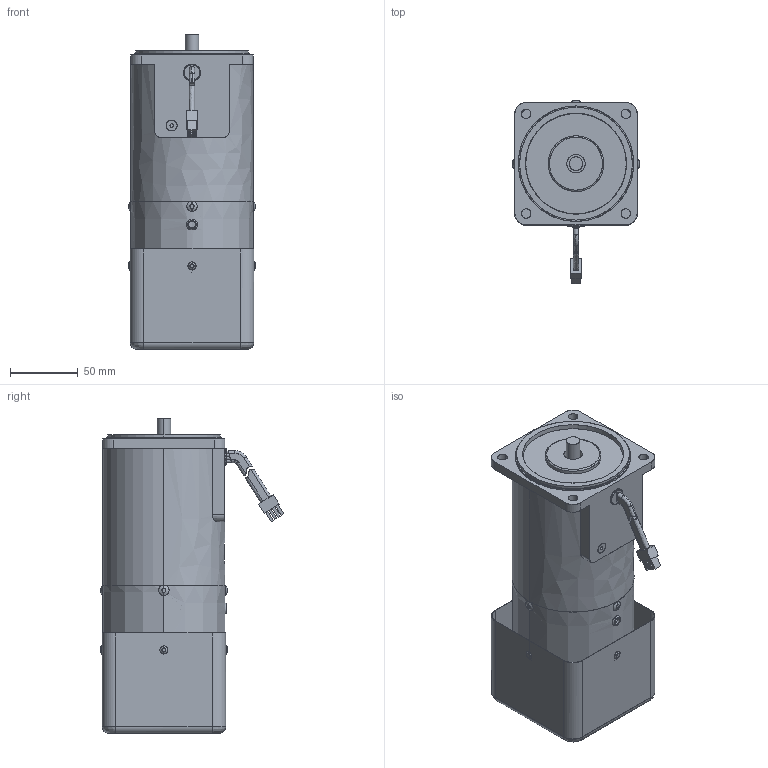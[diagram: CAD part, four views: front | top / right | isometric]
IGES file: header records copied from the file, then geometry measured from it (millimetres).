
Start section: SolidWorks IGES file using analytic representation for surfaces
Global section: file name: \\楷备家烹钦辑滚\data (D)\档搁 枚\权其捞瘤 档搁\9. SPEED BRAKE\90\90W\(9-80) 9SBDG∴-90F2W.IGS; native system: SolidWorks 2007; preprocessor: SolidWorks 2007; author: user; date: 150723.140221; units: millimetre
Bounding box: 94 x 135.4 x 232 mm (x, y, z)
Surface area: 220824.9 mm2 (no closed solid volume)
Topology: 0 solids, 0 shells, 462 faces, 9196 edges, 9196 vertices
Faces by surface type: revolution 286, bspline 176
